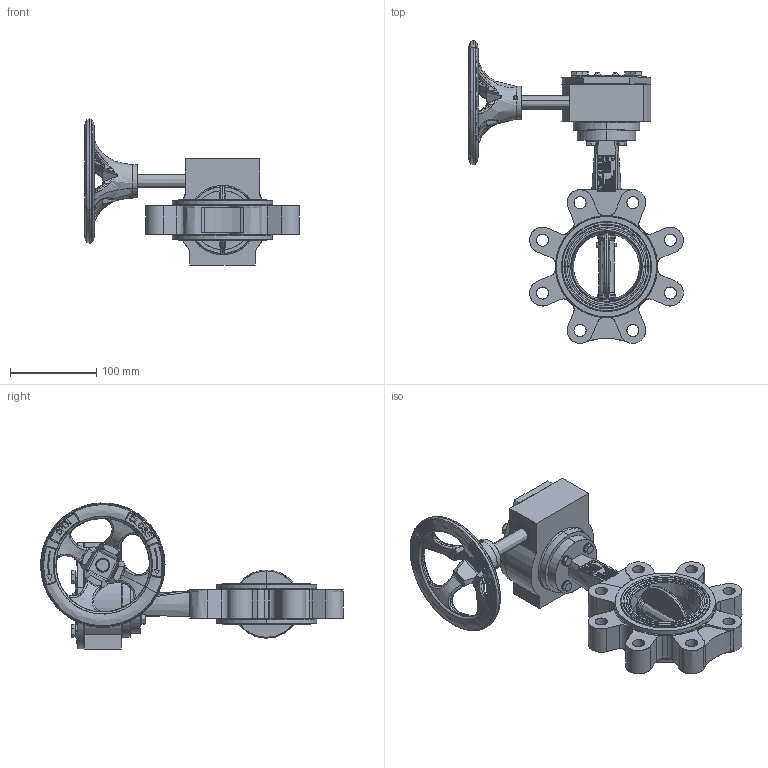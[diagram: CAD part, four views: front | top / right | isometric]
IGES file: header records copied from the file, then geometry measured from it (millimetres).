
Start section: SolidWorks IGES file using analytic representation for surfaces
Global section: file name: H:\BE FABRICATION\BE SERIE\VP\VP SERIE\F072 VPG\plan 3D\VPG-08\LUG\DN80\VPG464X-08XX0080.igs; native system: SolidWorks 2020; preprocessor: SolidWorks 2020; author: k.gigout; date: 220630.101615; units: millimetre
Bounding box: 248.36 x 350.4 x 168.95 mm (x, y, z)
Surface area: 220848.1 mm2 (no closed solid volume)
Topology: 0 solids, 0 shells, 1011 faces, 23037 edges, 23021 vertices
Faces by surface type: bspline 724, revolution 287
